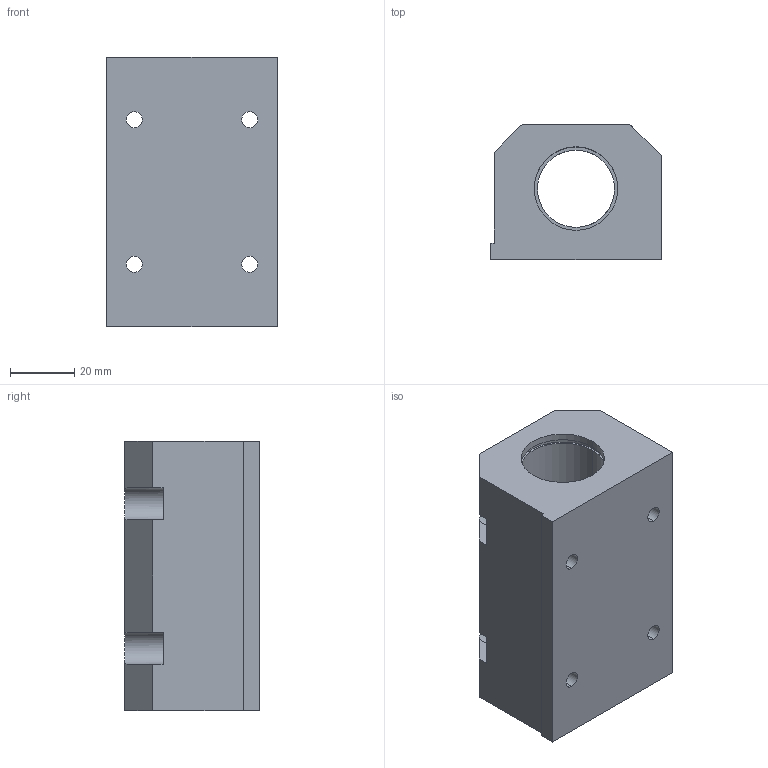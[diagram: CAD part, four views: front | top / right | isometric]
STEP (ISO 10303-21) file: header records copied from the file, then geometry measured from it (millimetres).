
FILE_DESCRIPTION (( 'STEP AP214' ), '1' );
FILE_NAME ('KTG85-I-16.step', '2020-03-04T13:29:48', ( '' ), ( '' ), 'SwSTEP 2.0', 'SolidWorks 2019', '' );
FILE_SCHEMA (( 'AUTOMOTIVE_DESIGN' ));
Length unit declared in the file: millimetre
Products named in the file (1): KTG85-I-16
Bounding box: 53 x 42 x 84 mm (x, y, z)
Volume: 125395.4 mm3; surface area: 28389.5 mm2
Topology: 1 solids, 1 shells, 65 faces, 167 edges, 110 vertices
Faces by surface type: plane 32, cylinder 30, cone 3
Entity records: 2204 total; most frequent: CARTESIAN_POINT 423, DIRECTION 346, ORIENTED_EDGE 334, EDGE_CURVE 167, AXIS2_PLACEMENT_3D 125, VERTEX_POINT 110, VECTOR 96, LINE 96
